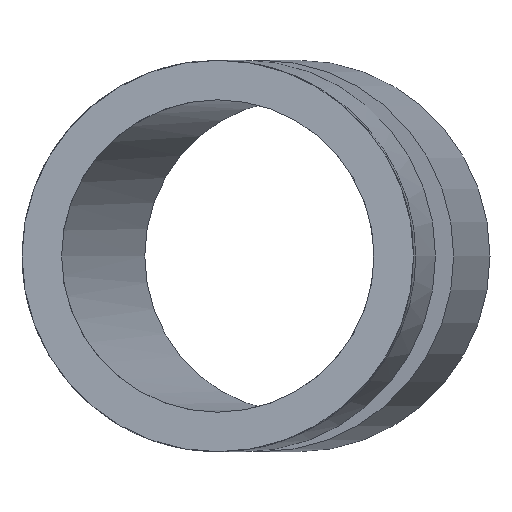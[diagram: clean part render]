
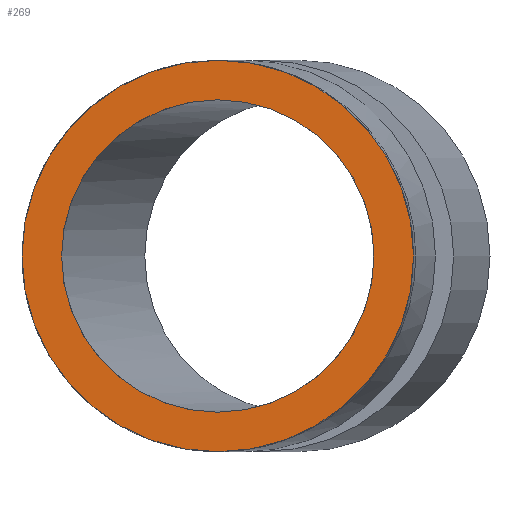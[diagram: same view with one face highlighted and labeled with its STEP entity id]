
A CAD part, front view. The second image highlights one B-rep face of the part: STEP entity #269.
In plain terms, the highlighted planar face has unit normal (0, -1, 0).
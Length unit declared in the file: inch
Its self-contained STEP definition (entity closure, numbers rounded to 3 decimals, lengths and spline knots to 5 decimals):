
#19=FACE_BOUND('',#103,.T.);
#25=PLANE('',#328);
#56=CIRCLE('',#325,0.5245);
#57=CIRCLE('',#327,0.6575);
#81=FACE_OUTER_BOUND('',#102,.T.);
#102=EDGE_LOOP('',(#233));
#103=EDGE_LOOP('',(#234));
#134=VERTEX_POINT('',#560);
#135=VERTEX_POINT('',#564);
#165=EDGE_CURVE('',#134,#134,#56,.T.);
#168=EDGE_CURVE('',#135,#135,#57,.T.);
#233=ORIENTED_EDGE('',*,*,#168,.T.);
#234=ORIENTED_EDGE('',*,*,#165,.T.);
#269=ADVANCED_FACE('',(#81,#19),#25,.F.);
#325=AXIS2_PLACEMENT_3D('',#561,#407,#408);
#327=AXIS2_PLACEMENT_3D('',#566,#413,#414);
#328=AXIS2_PLACEMENT_3D('',#567,#415,#416);
#407=DIRECTION('center_axis',(0.,1.,0.));
#408=DIRECTION('ref_axis',(1.,0.,0.));
#413=DIRECTION('center_axis',(0.,-1.,0.));
#414=DIRECTION('ref_axis',(1.,0.,0.));
#415=DIRECTION('center_axis',(0.,1.,0.));
#416=DIRECTION('ref_axis',(0.,0.,1.));
#560=CARTESIAN_POINT('',(-0.5245,0.,0.));
#561=CARTESIAN_POINT('Origin',(0.,0.,0.));
#564=CARTESIAN_POINT('',(-0.6575,0.,0.));
#566=CARTESIAN_POINT('Origin',(0.,0.,0.));
#567=CARTESIAN_POINT('Origin',(0.,0.,0.));
